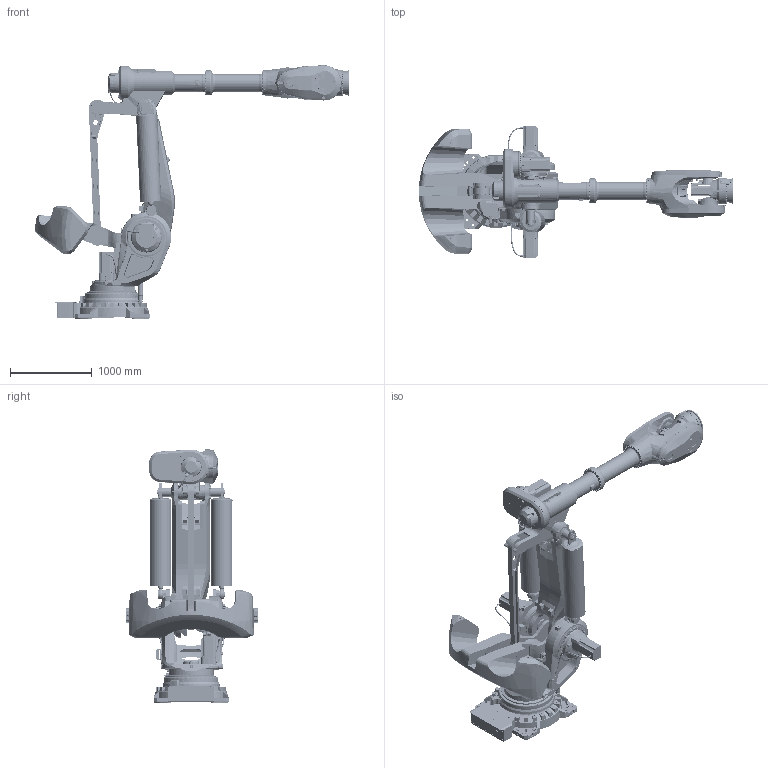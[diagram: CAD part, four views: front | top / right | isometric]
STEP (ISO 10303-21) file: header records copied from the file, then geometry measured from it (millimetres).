
FILE_DESCRIPTION(/* description */ (''),/* implementation_level */ '2;1');
FILE_NAME(/* name */ 'E:\组装完成的图纸\IRB 8700\IRB 8700-550-4.2\IRB 8700-550-4.2.stp',/* time_stamp */ '2023-10-31T12:20:34+08:00',/* author */ ('Administrator'),/* organization */ (''),/* preprocessor_version */ 'ST-DEVELOPER v16.5',/* originating_system */ 'Autodesk Inventor 2017',/* authorisation */ '');
FILE_SCHEMA (('AUTOMOTIVE_DESIGN { 1 0 10303 214 3 1 1 }'));
Length unit declared in the file: millimetre
Products named in the file (14): 部件4; IRB8700_550-420_IRC5_rev00_BAL-A-LEFT_CAD; IRB8700_550-420_IRC5_rev00_BAL-A-RIGHT_CAD; IRB8700_550-420_IRC5_rev00_BAL-B-LEFT_CAD; IRB8700_550-420_IRC5_rev00_BAL-B-RIGHT_CAD; IRB8700_550-420_IRC5_rev00_LINK1_CAD; IRB8700_550-420_IRC5_rev00_LINK2_CAD; IRB8700_550-420_IRC5_rev00_LINK3_CAD; IRB8700_550-420_IRC5_rev00_LINK4_CAD; IRB8700_550-420_IRC5_rev00_LINK5_CAD; IRB8700_550-420_IRC5_rev00_LINK6_CAD; IRB8700_550-420_IRC5_rev00_LINKARM_CAD; IRB8700_550-420_IRC5_rev00_LINKBAR_CAD; IRB8700_550-420_IRC5_rev01_BASE_CAD
Assembly tree (13 placements, depth 2):
  部件4
    IRB8700_550-420_IRC5_rev00_BAL-A-LEFT_CAD
    IRB8700_550-420_IRC5_rev00_BAL-A-RIGHT_CAD
    IRB8700_550-420_IRC5_rev00_BAL-B-LEFT_CAD
    IRB8700_550-420_IRC5_rev00_BAL-B-RIGHT_CAD
    IRB8700_550-420_IRC5_rev00_LINK1_CAD
    IRB8700_550-420_IRC5_rev00_LINK2_CAD
    IRB8700_550-420_IRC5_rev00_LINK3_CAD
    IRB8700_550-420_IRC5_rev00_LINK4_CAD
    IRB8700_550-420_IRC5_rev00_LINK5_CAD
    IRB8700_550-420_IRC5_rev00_LINK6_CAD
    IRB8700_550-420_IRC5_rev00_LINKARM_CAD
    IRB8700_550-420_IRC5_rev00_LINKBAR_CAD
    IRB8700_550-420_IRC5_rev01_BASE_CAD
Bounding box: 3852.47 x 1621 x 3106.11 mm (x, y, z)
Volume: 1243297748 mm3; surface area: 27791889.7 mm2
Topology: 18 solids, 26 shells, 4970 faces, 12473 edges, 8093 vertices
Faces by surface type: plane 2888, cylinder 1125, cone 528, bspline 381, torus 44, sphere 4
Full cylindrical faces by diameter (mm): 1.6 x3, 5 x10, 5.45 x1, 6.5 x4, 6.6 x12, 6.8 x26, 8 x1, 8.5 x8, 8.6 x2, 8.8 x2, 10.2 x4, 11 x3, 11.05 x2, 11.2 x1, 11.5 x1, 12 x1, 12.9 x2, 13.3 x4, 14 x27, 15 x4, 16 x1, 17 x16, 18.3 x32, 18.5 x8, 19 x79, 20 x5, 21 x6, 22 x2, 22.114 x1, 24 x51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
Entity records: 260447 total; most frequent: CARTESIAN_POINT 146022, ORIENTED_EDGE 23342, DIRECTION 22776, EDGE_CURVE 11671, AXIS2_PLACEMENT_3D 8213, VERTEX_POINT 7960, LINE 6350, VECTOR 6350
